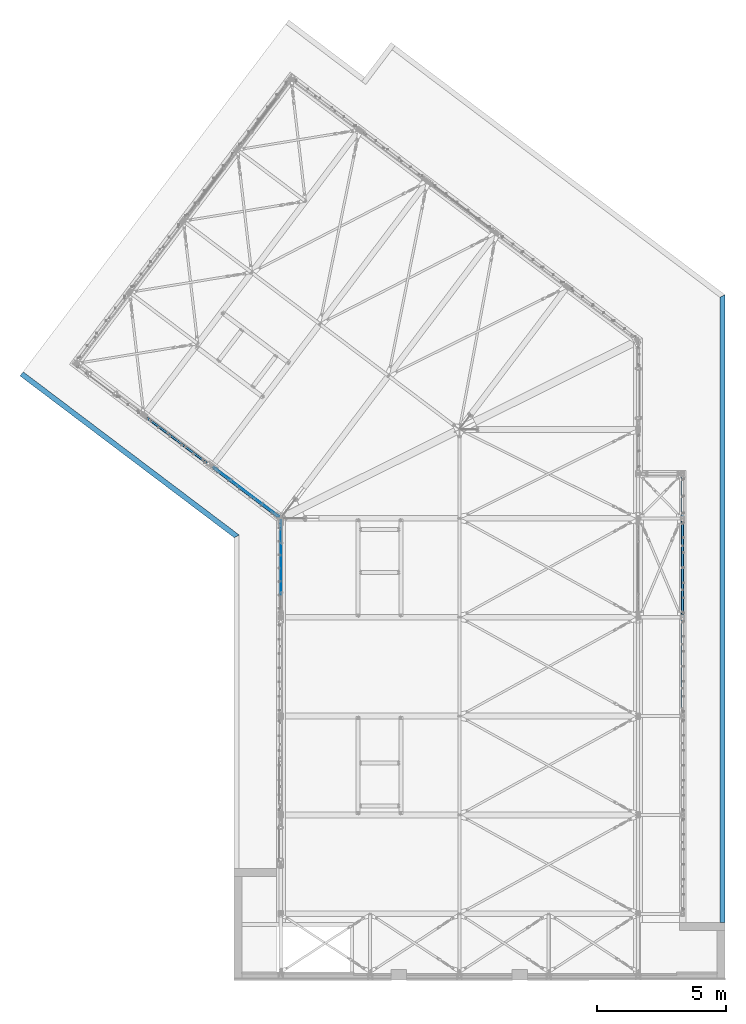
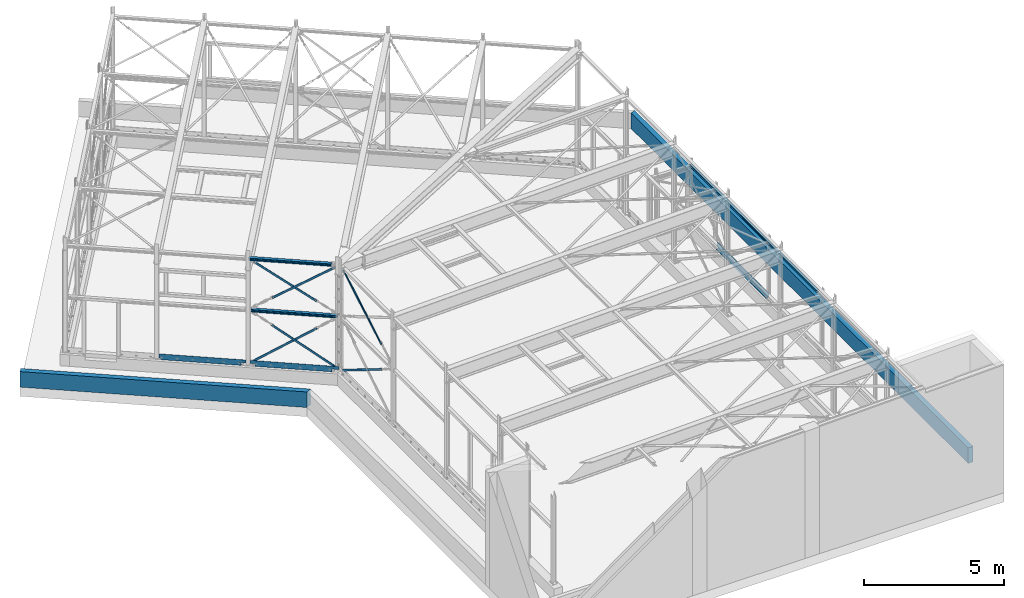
# One storey, part 18 of 476: 8 beams, 6 members, 64 openings.
"""IFC2X3 building model written with IfcOpenShell, lengths in millimetres."""

from ifc_helpers import new_model, entity, si_unit, converted_unit, frame, frame_2d, origin, origin_with_axes, origin_2d, origin_2d_with_axis, place, context, project, spatial, polyline, rectangle, circle, i_section, l_section, outline, extrude, clip, halfspace, material, element, save


model = new_model("IFC2X3")

# Units and contexts
model_context = context("Model", 3, precision=1e-09, world=origin_with_axes())
ifc_project = project(units=[si_unit("LENGTHUNIT", "METRE", prefix="MILLI"), si_unit("AREAUNIT", "SQUARE_METRE"), si_unit("VOLUMEUNIT", "CUBIC_METRE"), converted_unit("PLANEANGLEUNIT", "DEGREE", entity("IfcPlaneAngleMeasure", 0.01745329), si_unit("PLANEANGLEUNIT", "RADIAN"), dimensions=[0, 0, 0, 0, 0, 0, 0])], contexts=[model_context])

# Site, building, storey
site_placement = place(None, origin_with_axes())
site = spatial("IfcSite", under=ifc_project, at=site_placement, Name="mKR Teilneubau & Sanierung BA1 - Ostfildern", CompositionType="ELEMENT")
building_placement = place(site_placement, origin_with_axes())
building = spatial("IfcBuilding", under=site, at=building_placement, Name="Struktur 1", CompositionType="ELEMENT")
storey_placement = place(building_placement, origin_with_axes())
storey = spatial("IfcBuildingStorey", under=building, at=storey_placement, Name="Default Storey", CompositionType="ELEMENT", Elevation=0.0)

# Beam, openings
ifc_material_1 = material(Name="S235JR")
beam_1_placement = place(None, frame((5544.70746781, -4032.7350937, 594.5), z_axis=(0.797941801, -0.602734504, 0.0), x_axis=(0.602734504, 0.797941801, 0.0)))
beam_1 = element("IfcBeam", 1, at=beam_1_placement, inside=storey, material=ifc_material_1, Name="-", ObjectType="-", context=model_context, shape_type="SweptSolid", body=[
    extrude(l_section(Depth=250.0, Width=90.0, Thickness=10.0, FilletRadius=15.0, EdgeRadius=7.5, at=frame_2d((30.5, 29.4))), origin(), (0.0, 0.0, 1.0), 3208.022247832),
])
opening_1_placement = place(beam_1_placement, frame((-115.7, 25.501, 165.001), z_axis=(-1.0, 0.0, 0.0), x_axis=(0.0, 0.0, -1.0)))
element("IfcOpeningElement", 2, at=opening_1_placement, cuts=beam_1, ObjectType="Opening", context=model_context, shape_type="SweptSolid", body=[
    extrude(outline(polyline([(0.0, 0.0), (215.002, 0.0), (215.002, 170.002), (0.0, 170.002), (0.0, 0.0)])), origin(), (0.0, 0.0, -1.0), 290.2),
])
opening_2_placement = place(beam_1_placement, frame((-115.7, -144.501, 2946.361581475), z_axis=(-1.0, 0.0, 0.0), x_axis=(0.0, 0.0, 1.0)))
element("IfcOpeningElement", 3, at=opening_2_placement, cuts=beam_1, ObjectType="Opening", context=model_context, shape_type="SweptSolid", body=[
    extrude(outline(polyline([(0.0, 0.0), (292.425008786, 0.0), (292.425008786, 170.002), (0.0, 170.002), (0.0, 0.0)])), origin(), (0.0, 0.0, -1.0), 290.2),
])
opening_3_placement = place(beam_1_placement, frame((34.4, -95.0, 1555.681290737), z_axis=(0.0, 1.0, 0.0), x_axis=(0.0, 0.0, 1.0)))
element("IfcOpeningElement", 4, at=opening_3_placement, cuts=beam_1, ObjectType="Opening", context=model_context, shape_type="SweptSolid", body=[
    extrude(circle(Radius=6.001, at=frame_2d((425.0, 0.0), x_axis=(1.0, 0.0))), origin(), (0.0, 0.0, 1.0), 11.0),
])
opening_4_placement = place(beam_1_placement, frame((34.4, -95.0, 1555.681290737), z_axis=(0.0, 1.0, 0.0), x_axis=(0.0, 0.0, 1.0)))
element("IfcOpeningElement", 5, at=opening_4_placement, cuts=beam_1, ObjectType="Opening", context=model_context, shape_type="SweptSolid", body=[
    extrude(circle(Radius=6.001, at=frame_2d((-425.0, 0.0), x_axis=(1.0, 0.0))), origin(), (0.0, 0.0, 1.0), 11.0),
])
opening_5_placement = place(beam_1_placement, frame((34.4, -95.0, 1555.681290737), z_axis=(0.0, 1.0, 0.0), x_axis=(0.0, 0.0, 1.0)))
element("IfcOpeningElement", 6, at=opening_5_placement, cuts=beam_1, ObjectType="Opening", context=model_context, shape_type="SweptSolid", body=[
    extrude(circle(Radius=6.001, at=frame_2d((1275.0, 0.0), x_axis=(1.0, 0.0))), origin(), (0.0, 0.0, 1.0), 11.0),
])
opening_6_placement = place(beam_1_placement, frame((34.4, -95.0, 1555.681290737), z_axis=(0.0, 1.0, 0.0), x_axis=(0.0, 0.0, 1.0)))
element("IfcOpeningElement", 7, at=opening_6_placement, cuts=beam_1, ObjectType="Opening", context=model_context, shape_type="SweptSolid", body=[
    extrude(circle(Radius=6.001, at=frame_2d((-1275.0, 0.0), x_axis=(1.0, 0.0))), origin(), (0.0, 0.0, 1.0), 11.0),
])
opening_7_placement = place(beam_1_placement, frame((-5.1, 13.5, 1554.011123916), z_axis=(-1.0, 0.0, 0.0), x_axis=(0.0, 0.0, 1.0)))
element("IfcOpeningElement", 8, at=opening_7_placement, cuts=beam_1, ObjectType="Opening", context=model_context, shape_type="SweptSolid", body=[
    extrude(circle(Radius=7.001, at=frame_2d((265.0, 0.0), x_axis=(1.0, 0.0))), origin(), (0.0, 0.0, 1.0), 11.0),
])
opening_8_placement = place(beam_1_placement, frame((-5.1, 13.5, 1554.011123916), z_axis=(-1.0, 0.0, 0.0), x_axis=(0.0, 0.0, 1.0)))
element("IfcOpeningElement", 9, at=opening_8_placement, cuts=beam_1, ObjectType="Opening", context=model_context, shape_type="SweptSolid", body=[
    extrude(circle(Radius=7.001, at=frame_2d((-265.0, 0.0), x_axis=(1.0, 0.0))), origin(), (0.0, 0.0, 1.0), 11.0),
])
opening_9_placement = place(beam_1_placement, frame((-5.1, 13.5, 1554.011123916), z_axis=(-1.0, 0.0, 0.0), x_axis=(0.0, 0.0, 1.0)))
element("IfcOpeningElement", 10, at=opening_9_placement, cuts=beam_1, ObjectType="Opening", context=model_context, shape_type="SweptSolid", body=[
    extrude(circle(Radius=7.001, at=frame_2d((795.0, 0.0), x_axis=(1.0, 0.0))), origin(), (0.0, 0.0, 1.0), 11.0),
])
opening_10_placement = place(beam_1_placement, frame((-5.1, 13.5, 1554.011123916), z_axis=(-1.0, 0.0, 0.0), x_axis=(0.0, 0.0, 1.0)))
element("IfcOpeningElement", 11, at=opening_10_placement, cuts=beam_1, ObjectType="Opening", context=model_context, shape_type="SweptSolid", body=[
    extrude(circle(Radius=7.001, at=frame_2d((-795.0, 0.0), x_axis=(1.0, 0.0))), origin(), (0.0, 0.0, 1.0), 11.0),
])
opening_11_placement = place(beam_1_placement, frame((-5.1, 13.5, 1554.011123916), z_axis=(-1.0, 0.0, 0.0), x_axis=(0.0, 0.0, 1.0)))
element("IfcOpeningElement", 12, at=opening_11_placement, cuts=beam_1, ObjectType="Opening", context=model_context, shape_type="SweptSolid", body=[
    extrude(circle(Radius=7.001, at=frame_2d((1325.0, 0.0), x_axis=(1.0, 0.0))), origin(), (0.0, 0.0, 1.0), 11.0),
])
opening_12_placement = place(beam_1_placement, frame((-5.1, 13.5, 1554.011123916), z_axis=(-1.0, 0.0, 0.0), x_axis=(0.0, 0.0, 1.0)))
element("IfcOpeningElement", 13, at=opening_12_placement, cuts=beam_1, ObjectType="Opening", context=model_context, shape_type="SweptSolid", body=[
    extrude(circle(Radius=7.001, at=frame_2d((-1325.0, 0.0), x_axis=(1.0, 0.0))), origin(), (0.0, 0.0, 1.0), 11.0),
])

# Member, openings
member_1_placement = place(None, frame((8180.608780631, -6144.963017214, 5041.7607805), z_axis=(0.0, 0.861941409, 0.507007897), x_axis=(1.0, 0.0, 0.0)))
member_1 = element("IfcMember", 14, at=member_1_placement, inside=storey, material=ifc_material_1, Name="-", ObjectType="-", context=model_context, shape_type="SweptSolid", body=[
    extrude(rectangle(XDim=15.0, YDim=80.0, at=origin_2d()), origin(), (0.0, 0.0, -1.0), 3147.918705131),
])
opening_13_placement = place(member_1_placement, frame((8.0, -8.113278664, -73.791962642), z_axis=(1.0, 0.0, 0.0), x_axis=(0.0, 1.0, 0.0)))
element("IfcOpeningElement", 15, at=opening_13_placement, cuts=member_1, ObjectType="Opening", context=model_context, shape_type="SweptSolid", body=[
    extrude(circle(Radius=16.001, at=frame_2d((8.112633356, 13.791924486), x_axis=(1.0, 0.0))), origin(), (0.0, 0.0, -1.0), 16.0),
])
opening_14_placement = place(member_1_placement, frame((8.0, 0.0, -3087.918705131), z_axis=(-1.0, 0.0, 0.0), x_axis=(0.0, 0.0, -1.0)))
element("IfcOpeningElement", 16, at=opening_14_placement, cuts=member_1, ObjectType="Opening", context=model_context, shape_type="SweptSolid", body=[
    extrude(circle(Radius=16.001, at=origin_2d_with_axis()), origin(), (0.0, 0.0, 1.0), 16.0),
])

member_2_placement = place(None, frame((8180.60877169, -8867.604272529, 2355.088920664), z_axis=(0.0, -0.849856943, 0.527013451), x_axis=(1.0, 0.0, 0.0)))
member_2 = element("IfcMember", 17, at=member_2_placement, inside=storey, material=ifc_material_1, Name="-", ObjectType="-", context=model_context, shape_type="SweptSolid", body=[
    extrude(rectangle(XDim=15.0, YDim=80.0, at=origin_2d()), origin(), (0.0, 0.0, -1.0), 3314.667608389),
])
opening_15_placement = place(member_2_placement, frame((8.0, 0.0, -60.0), z_axis=(-1.0, 0.0, 0.0), x_axis=(0.0, 0.0, 1.0)))
element("IfcOpeningElement", 18, at=opening_15_placement, cuts=member_2, ObjectType="Opening", context=model_context, shape_type="SweptSolid", body=[
    extrude(circle(Radius=16.001, at=origin_2d_with_axis()), origin(), (0.0, 0.0, 1.0), 16.0),
])
opening_16_placement = place(member_2_placement, frame((8.000000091, -0.001879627, -3254.667607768), z_axis=(-1.0, 0.0, 0.0), x_axis=(0.0, 0.527013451, -0.849856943)))
element("IfcOpeningElement", 19, at=opening_16_placement, cuts=member_2, ObjectType="Opening", context=model_context, shape_type="SweptSolid", body=[
    extrude(circle(Radius=16.001, at=origin_2d_with_axis()), origin(), (0.0, 0.0, 1.0), 16.000000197),
])

member_3_placement = place(None, frame((6208.380627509, -4451.460784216, 3493.84003696), z_axis=(-0.661365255, 0.499569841, -0.559487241), x_axis=(0.602734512, 0.797941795, 0.0)))
member_3 = element("IfcMember", 20, at=member_3_placement, inside=storey, material=ifc_material_1, Name="-", ObjectType="-", context=model_context, shape_type="SweptSolid", body=[
    extrude(rectangle(XDim=15.0, YDim=80.0, at=origin_2d()), origin(), (0.0, 0.0, -1.0), 2758.093471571),
])
opening_17_placement = place(member_3_placement, frame((8.000001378, 3.25e-07, -2698.093480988), z_axis=(-1.0, 0.0, 0.0), x_axis=(0.0, 0.559487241, -0.828838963)))
element("IfcOpeningElement", 21, at=opening_17_placement, cuts=member_3, ObjectType="Opening", context=model_context, shape_type="SweptSolid", body=[
    extrude(circle(Radius=16.001, at=origin_2d_with_axis()), origin(), (0.0, 0.0, 1.0), 16.000002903),
])
opening_18_placement = place(member_3_placement, frame((8.0, 0.0, -60.0), z_axis=(-1.0, 0.0, 0.0), x_axis=(0.0, 0.0, -1.0)))
element("IfcOpeningElement", 22, at=opening_18_placement, cuts=member_3, ObjectType="Opening", context=model_context, shape_type="SweptSolid", body=[
    extrude(circle(Radius=16.001, at=origin_2d_with_axis()), origin(), (0.0, 0.0, 1.0), 16.0),
])

member_4_placement = place(None, frame((5662.754287, -4039.315661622, 5036.95813771), z_axis=(-0.661365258, 0.499569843, 0.559487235), x_axis=(0.602734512, 0.797941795, 0.0)))
member_4 = element("IfcMember", 23, at=member_4_placement, inside=storey, material=ifc_material_1, Name="-", ObjectType="-", context=model_context, shape_type="SweptSolid", body=[
    extrude(rectangle(XDim=15.0, YDim=80.0, at=origin_2d()), origin(), (0.0, 0.0, -1.0), 2758.09347402),
])
opening_19_placement = place(member_4_placement, frame((8.000001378, -3.25e-07, -59.99999795), z_axis=(-1.0, 0.0, 0.0), x_axis=(0.0, -0.559487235, -0.828838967)))
element("IfcOpeningElement", 24, at=opening_19_placement, cuts=member_4, ObjectType="Opening", context=model_context, shape_type="SweptSolid", body=[
    extrude(circle(Radius=16.001, at=origin_2d_with_axis()), origin(), (0.0, 0.0, 1.0), 16.000002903),
])
opening_20_placement = place(member_4_placement, frame((8.0, 0.0, -2698.093480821), z_axis=(-1.0, 0.0, 0.0), x_axis=(0.0, 0.0, -1.0)))
element("IfcOpeningElement", 25, at=opening_20_placement, cuts=member_4, ObjectType="Opening", context=model_context, shape_type="SweptSolid", body=[
    extrude(circle(Radius=16.001, at=origin_2d_with_axis()), origin(), (0.0, 0.0, 1.0), 16.0),
])

member_5_placement = place(None, frame((8091.63453492, -5873.998230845, 619.037732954), z_axis=(0.650125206, -0.491079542, -0.579808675), x_axis=(0.602734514, 0.797941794, 0.0)))
member_5 = element("IfcMember", 26, at=member_5_placement, inside=storey, material=ifc_material_1, Name="-", ObjectType="-", context=model_context, shape_type="SweptSolid", body=[
    extrude(rectangle(XDim=15.0, YDim=80.0, at=origin_2d()), origin(), (0.0, 0.0, -1.0), 2909.942158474),
])
opening_21_placement = place(member_5_placement, frame((8.00000136, 3.23e-07, -59.999998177), z_axis=(-1.0, 0.0, 0.0), x_axis=(0.0, 0.579808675, 0.814752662)))
element("IfcOpeningElement", 27, at=opening_21_placement, cuts=member_5, ObjectType="Opening", context=model_context, shape_type="SweptSolid", body=[
    extrude(circle(Radius=16.001, at=origin_2d_with_axis()), origin(), (0.0, 0.0, 1.0), 16.000002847),
])
opening_22_placement = place(member_5_placement, frame((8.0, 0.0, -2849.942159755), z_axis=(-1.0, 0.0, 0.0), x_axis=(0.0, 0.0, -1.0)))
element("IfcOpeningElement", 28, at=opening_22_placement, cuts=member_5, ObjectType="Opening", context=model_context, shape_type="SweptSolid", body=[
    extrude(circle(Radius=16.001, at=origin_2d_with_axis()), origin(), (0.0, 0.0, 1.0), 16.0),
])

member_6_placement = place(None, frame((7495.434800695, -5423.651919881, 2306.246630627), z_axis=(0.650125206, -0.491079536, 0.579808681), x_axis=(0.60273451, 0.797941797, 0.0)))
member_6 = element("IfcMember", 29, at=member_6_placement, inside=storey, material=ifc_material_1, Name="-", ObjectType="-", context=model_context, shape_type="SweptSolid", body=[
    extrude(rectangle(XDim=15.0, YDim=80.0, at=origin_2d()), origin(), (0.0, 0.0, -1.0), 2909.942154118),
])
opening_23_placement = place(member_6_placement, frame((8.000001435, -3.41e-07, -2849.942153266), z_axis=(-1.0, 0.0, 0.0), x_axis=(0.0, -0.579808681, 0.814752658)))
element("IfcOpeningElement", 30, at=opening_23_placement, cuts=member_6, ObjectType="Opening", context=model_context, shape_type="SweptSolid", body=[
    extrude(circle(Radius=16.001, at=origin_2d_with_axis()), origin(), (0.0, 0.0, 1.0), 16.000003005),
])
opening_24_placement = place(member_6_placement, frame((8.0, 0.0, -59.999997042), z_axis=(-1.0, 0.0, 0.0), x_axis=(0.0, 0.0, 1.0)))
element("IfcOpeningElement", 31, at=opening_24_placement, cuts=member_6, ObjectType="Opening", context=model_context, shape_type="SweptSolid", body=[
    extrude(circle(Radius=16.001, at=origin_2d_with_axis()), origin(), (0.0, 0.0, 1.0), 16.0),
])

# Beams
beam_2_placement = place(None, frame((5445.514318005, -3894.020080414, 2912.000000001), z_axis=(-0.797941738, 0.602734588, 0.0), x_axis=(-0.602734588, -0.797941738, 0.0)))
element("IfcBeam", 32, at=beam_2_placement, inside=storey, material=ifc_material_1, Name="-", ObjectType="-", context=model_context, shape_type="Clipping", body=[
    clip(clip(extrude(i_section(OverallWidth=120.0, OverallDepth=114.0, WebThickness=5.0, FlangeThickness=8.0, FilletRadius=12.0, at=origin_2d()), origin(), (0.0, 0.0, -1.0), 3501.333926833), halfspace(frame((174.997958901, -2912.000000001, -182.759703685), z_axis=(-1.05e-07, 0.0, -1.0), x_axis=(-1.0, 0.0, 1.05e-07)), True)), halfspace(frame((4125.367764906, -2912.000000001, -1243.639179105), z_axis=(-0.445626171, 0.0, 0.895219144), x_axis=(0.895219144, 0.0, 0.445626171)), True)),
])
ifc_material_2 = material(Name="C25/30")
beam_3_placement = place(None, frame((7039.844424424, -7078.412447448, 340.0), z_axis=(0.797939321, -0.602737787, 0.0), x_axis=(0.602737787, 0.797939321, 0.0)))
element("IfcBeam", 33, at=beam_3_placement, inside=storey, material=ifc_material_2, Name="-", ObjectType="-", context=model_context, shape_type="Clipping", body=[
    clip(extrude(outline(polyline([(100.0, -340.0), (100.0, 340.0), (-100.0, 340.0), (-100.0, -340.0), (100.0, -340.0)])), origin(), (0.0, 0.0, -1.0), 11138.806274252), halfspace(frame((-2527.822247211, -340.0, -1984.417573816), z_axis=(0.445680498, 0.0, -0.895192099), x_axis=(-0.895192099, 0.0, -0.445680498)), True)),
])
beam_4_placement = place(None, frame((25225.608703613, -21560.673034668, 340.0), z_axis=(0.0, -1.0, 0.0), x_axis=(1.0, 0.0, 0.0)))
element("IfcBeam", 34, at=beam_4_placement, inside=storey, material=ifc_material_2, Name="-", ObjectType="-", context=model_context, shape_type="Clipping", body=[
    clip(extrude(outline(polyline([(100.0, -340.0), (100.0, 340.0), (-100.0, 340.0), (-100.0, -340.0), (100.0, -340.0)])), origin(), (0.0, 0.0, -1.0), 24925.452040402), halfspace(frame((-21267.807209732, -340.0, -13611.08845573), z_axis=(0.445682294, 0.0, 0.895191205), x_axis=(0.895191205, 0.0, -0.445682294)), True)),
])

# Beam, openings
beam_5_placement = place(None, frame((23683.608764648, -4168.67387897, 3018.0), z_axis=(0.0, 1.0, 0.0), x_axis=(-1.0, 0.0, 0.0)))
beam_5 = element("IfcBeam", 35, at=beam_5_placement, inside=storey, material=ifc_material_1, Name="-", ObjectType="-", context=model_context, shape_type="Clipping", body=[
    clip(extrude(i_section(OverallWidth=100.0, OverallDepth=96.0, WebThickness=5.0, FlangeThickness=8.0, FilletRadius=12.0, at=origin_2d()), origin(), (0.0, 0.0, -1.0), 9186.310893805), halfspace(frame((23683.608764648, -3018.0, -9101.999), z_axis=(0.0, 0.0, 1.0), x_axis=(1.0, 0.0, 0.0)), True)),
])
opening_25_placement = place(beam_5_placement, frame((28.0, -48.5, -5529.001), z_axis=(0.0, -1.0, 0.0), x_axis=(1.0, 0.0, 0.0)))
element("IfcOpeningElement", 36, at=opening_25_placement, cuts=beam_5, ObjectType="Opening", context=model_context, shape_type="SweptSolid", body=[
    extrude(circle(Radius=7.001, at=frame_2d((0.0, 7.001), x_axis=(1.0, 0.0))), origin(), (0.0, 0.0, -1.0), 9.0),
])
opening_26_placement = place(beam_5_placement, frame((28.0, -48.5, -1712.001), z_axis=(0.0, -1.0, 0.0), x_axis=(1.0, 0.0, 0.0)))
element("IfcOpeningElement", 37, at=opening_26_placement, cuts=beam_5, ObjectType="Opening", context=model_context, shape_type="SweptSolid", body=[
    extrude(circle(Radius=7.001, at=frame_2d((0.0, 7.001), x_axis=(1.0, 0.0))), origin(), (0.0, 0.0, -1.0), 9.0),
])
opening_27_placement = place(beam_5_placement, frame((-28.0, -48.5, -5664.999), z_axis=(0.0, -1.0, 0.0), x_axis=(1.0, 0.0, 0.0)))
element("IfcOpeningElement", 38, at=opening_27_placement, cuts=beam_5, ObjectType="Opening", context=model_context, shape_type="SweptSolid", body=[
    extrude(circle(Radius=7.001, at=frame_2d((0.0, -7.001), x_axis=(1.0, 0.0))), origin(), (0.0, 0.0, -1.0), 9.0),
])
opening_28_placement = place(beam_5_placement, frame((-28.0, -48.5, -1847.999), z_axis=(0.0, -1.0, 0.0), x_axis=(1.0, 0.0, 0.0)))
element("IfcOpeningElement", 39, at=opening_28_placement, cuts=beam_5, ObjectType="Opening", context=model_context, shape_type="SweptSolid", body=[
    extrude(circle(Radius=7.001, at=frame_2d((0.0, -7.001), x_axis=(1.0, 0.0))), origin(), (0.0, 0.0, -1.0), 9.0),
])
opening_29_placement = place(beam_5_placement, frame((-28.0, -48.5, -1712.001), z_axis=(0.0, -1.0, 0.0), x_axis=(1.0, 0.0, 0.0)))
element("IfcOpeningElement", 40, at=opening_29_placement, cuts=beam_5, ObjectType="Opening", context=model_context, shape_type="SweptSolid", body=[
    extrude(circle(Radius=7.001, at=frame_2d((0.0, 7.001), x_axis=(1.0, 0.0))), origin(), (0.0, 0.0, -1.0), 9.0),
])
opening_30_placement = place(beam_5_placement, frame((-28.0, -48.5, -5529.001), z_axis=(0.0, -1.0, 0.0), x_axis=(1.0, 0.0, 0.0)))
element("IfcOpeningElement", 41, at=opening_30_placement, cuts=beam_5, ObjectType="Opening", context=model_context, shape_type="SweptSolid", body=[
    extrude(circle(Radius=7.001, at=frame_2d((0.0, 7.001), x_axis=(1.0, 0.0))), origin(), (0.0, 0.0, -1.0), 9.0),
])
opening_31_placement = place(beam_5_placement, frame((28.0, -48.5, -1847.999), z_axis=(0.0, -1.0, 0.0), x_axis=(1.0, 0.0, 0.0)))
element("IfcOpeningElement", 42, at=opening_31_placement, cuts=beam_5, ObjectType="Opening", context=model_context, shape_type="SweptSolid", body=[
    extrude(circle(Radius=7.001, at=frame_2d((0.0, -7.001), x_axis=(1.0, 0.0))), origin(), (0.0, 0.0, -1.0), 9.0),
])
opening_32_placement = place(beam_5_placement, frame((28.0, -48.5, -5664.999), z_axis=(0.0, -1.0, 0.0), x_axis=(1.0, 0.0, 0.0)))
element("IfcOpeningElement", 43, at=opening_32_placement, cuts=beam_5, ObjectType="Opening", context=model_context, shape_type="SweptSolid", body=[
    extrude(circle(Radius=7.001, at=frame_2d((0.0, -7.001), x_axis=(1.0, 0.0))), origin(), (0.0, 0.0, -1.0), 9.0),
])
opening_33_placement = place(beam_5_placement, frame((-28.0, -48.5, -117.999), z_axis=(0.0, -1.0, 0.0), x_axis=(1.0, 0.0, 0.0)))
element("IfcOpeningElement", 44, at=opening_33_placement, cuts=beam_5, ObjectType="Opening", context=model_context, shape_type="SweptSolid", body=[
    extrude(circle(Radius=7.001, at=frame_2d((0.0, -7.001), x_axis=(1.0, 0.0))), origin(), (0.0, 0.0, -1.0), 9.0),
])
opening_34_placement = place(beam_5_placement, frame((28.0, -48.5, -117.999), z_axis=(0.0, -1.0, 0.0), x_axis=(1.0, 0.0, 0.0)))
element("IfcOpeningElement", 45, at=opening_34_placement, cuts=beam_5, ObjectType="Opening", context=model_context, shape_type="SweptSolid", body=[
    extrude(circle(Radius=7.001, at=frame_2d((0.0, -7.001), x_axis=(1.0, 0.0))), origin(), (0.0, 0.0, -1.0), 9.0),
])

beam_6_placement = place(None, frame((5445.514277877, -3894.020049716, 5157.221173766), z_axis=(-0.797941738, 0.602734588, 0.0), x_axis=(-0.602462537, -0.797581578, -0.030041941)))
beam_6 = element("IfcBeam", 46, at=beam_6_placement, inside=storey, material=ifc_material_1, Name="-", ObjectType="-", context=model_context, shape_type="Clipping", body=[
    clip(extrude(i_section(OverallWidth=120.0, OverallDepth=114.0, WebThickness=5.0, FlangeThickness=8.0, FilletRadius=12.0, at=origin_2d()), origin(), (0.0, 0.0, -1.0), 3098.887726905), halfspace(frame((329.851917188, -5149.636126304, -100.759770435), z_axis=(-1.05e-07, 0.0, -1.0), x_axis=(-0.999548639, -0.030041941, 1.05e-07)), True)),
])
opening_35_placement = place(beam_6_placement, frame((45.0, 58.353598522, -162.758740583), z_axis=(0.0, -1.0, 0.0), x_axis=(1.05e-07, 0.0, 1.0)))
element("IfcOpeningElement", 47, at=opening_35_placement, cuts=beam_6, ObjectType="Opening", context=model_context, shape_type="SweptSolid", body=[
    extrude(outline(polyline([(0.0, 0.0), (0.0, -30.0), (62.0, -30.0), (62.0, 0.0), (0.0, 0.0)])), origin(), (0.0, 0.0, 1.0), 59.707197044),
])
opening_36_placement = place(beam_6_placement, frame((45.0, 1.332627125, -162.758740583), z_axis=(0.0, -1.0, 0.0), x_axis=(1.05e-07, 0.0, 1.0)))
element("IfcOpeningElement", 48, at=opening_36_placement, cuts=beam_6, ObjectType="Opening", context=model_context, shape_type="SweptSolid", body=[
    extrude(outline(polyline([(0.0, 0.0), (0.0, -30.0), (62.0, -30.0), (62.0, 0.0), (0.0, 0.0)])), origin(), (0.0, 0.0, 1.0), 59.665254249),
])
opening_37_placement = place(beam_6_placement, frame((3.0, 30.0, -3088.887882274), z_axis=(-1.0, 0.0, 0.0), x_axis=(0.0, 0.0, 1.0)))
element("IfcOpeningElement", 49, at=opening_37_placement, cuts=beam_6, ObjectType="Opening", context=model_context, shape_type="SweptSolid", body=[
    extrude(circle(Radius=6.001, at=origin_2d_with_axis()), origin(), (0.0, 0.0, 1.0), 6.0),
])
opening_38_placement = place(beam_6_placement, frame((3.0, -30.0, -3088.887882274), z_axis=(-1.0, 0.0, 0.0), x_axis=(0.0, 0.0, 1.0)))
element("IfcOpeningElement", 50, at=opening_38_placement, cuts=beam_6, ObjectType="Opening", context=model_context, shape_type="SweptSolid", body=[
    extrude(circle(Radius=6.001, at=origin_2d_with_axis()), origin(), (0.0, 0.0, 1.0), 6.0),
])

beam_7_placement = place(None, frame((2911.499483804, -2043.711198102, 594.5), z_axis=(0.797941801, -0.602734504, 0.0), x_axis=(0.602734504, 0.797941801, 0.0)))
beam_7 = element("IfcBeam", 51, at=beam_7_placement, inside=storey, material=ifc_material_1, Name="-", ObjectType="-", context=model_context, shape_type="SweptSolid", body=[
    extrude(l_section(Depth=250.0, Width=90.0, Thickness=10.0, FilletRadius=15.0, EdgeRadius=7.5, at=frame_2d((30.5, 29.4))), origin(), (0.0, 0.0, 1.0), 3140.000052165),
])
opening_39_placement = place(beam_7_placement, frame((-115.7, -14.499, 65.001), z_axis=(-1.0, 0.0, 0.0), x_axis=(0.0, 0.0, -1.0)))
element("IfcOpeningElement", 52, at=opening_39_placement, cuts=beam_7, ObjectType="Opening", context=model_context, shape_type="SweptSolid", body=[
    extrude(outline(polyline([(0.0, 0.0), (115.002, 0.0), (115.002, 130.002), (0.0, 130.002), (0.0, 0.0)])), origin(), (0.0, 0.0, -1.0), 290.2),
])
opening_40_placement = place(beam_7_placement, frame((-115.7, -144.501, 2974.999052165), z_axis=(-1.0, 0.0, 0.0), x_axis=(0.0, 0.0, 1.0)))
element("IfcOpeningElement", 53, at=opening_40_placement, cuts=beam_7, ObjectType="Opening", context=model_context, shape_type="SweptSolid", body=[
    extrude(outline(polyline([(0.0, 0.0), (211.576729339, 0.0), (211.576729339, 170.002), (0.0, 170.002), (0.0, 0.0)])), origin(), (0.0, 0.0, -1.0), 290.2),
])
opening_41_placement = place(beam_7_placement, frame((34.4, -95.0, 1520.000026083), z_axis=(0.0, 1.0, 0.0), x_axis=(0.0, 0.0, 1.0)))
element("IfcOpeningElement", 54, at=opening_41_placement, cuts=beam_7, ObjectType="Opening", context=model_context, shape_type="SweptSolid", body=[
    extrude(circle(Radius=6.001, at=frame_2d((425.0, 0.0), x_axis=(1.0, 0.0))), origin(), (0.0, 0.0, 1.0), 11.0),
])
opening_42_placement = place(beam_7_placement, frame((34.4, -95.0, 1520.000026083), z_axis=(0.0, 1.0, 0.0), x_axis=(0.0, 0.0, 1.0)))
element("IfcOpeningElement", 55, at=opening_42_placement, cuts=beam_7, ObjectType="Opening", context=model_context, shape_type="SweptSolid", body=[
    extrude(circle(Radius=6.001, at=frame_2d((-425.0, 0.0), x_axis=(1.0, 0.0))), origin(), (0.0, 0.0, 1.0), 11.0),
])
opening_43_placement = place(beam_7_placement, frame((34.4, -95.0, 1520.000026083), z_axis=(0.0, 1.0, 0.0), x_axis=(0.0, 0.0, 1.0)))
element("IfcOpeningElement", 56, at=opening_43_placement, cuts=beam_7, ObjectType="Opening", context=model_context, shape_type="SweptSolid", body=[
    extrude(circle(Radius=6.001, at=frame_2d((1275.0, 0.0), x_axis=(1.0, 0.0))), origin(), (0.0, 0.0, 1.0), 11.0),
])
opening_44_placement = place(beam_7_placement, frame((34.4, -95.0, 1520.000026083), z_axis=(0.0, 1.0, 0.0), x_axis=(0.0, 0.0, 1.0)))
element("IfcOpeningElement", 57, at=opening_44_placement, cuts=beam_7, ObjectType="Opening", context=model_context, shape_type="SweptSolid", body=[
    extrude(circle(Radius=6.001, at=frame_2d((-1275.0, 0.0), x_axis=(1.0, 0.0))), origin(), (0.0, 0.0, 1.0), 11.0),
])
opening_45_placement = place(beam_7_placement, frame((-5.1, 13.5, 1510.000026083), z_axis=(-1.0, 0.0, 0.0), x_axis=(0.0, 0.0, 1.0)))
element("IfcOpeningElement", 58, at=opening_45_placement, cuts=beam_7, ObjectType="Opening", context=model_context, shape_type="SweptSolid", body=[
    extrude(circle(Radius=7.001, at=frame_2d((280.0, 0.0), x_axis=(1.0, 0.0))), origin(), (0.0, 0.0, 1.0), 11.0),
])
opening_46_placement = place(beam_7_placement, frame((-5.1, 13.5, 1510.000026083), z_axis=(-1.0, 0.0, 0.0), x_axis=(0.0, 0.0, 1.0)))
element("IfcOpeningElement", 59, at=opening_46_placement, cuts=beam_7, ObjectType="Opening", context=model_context, shape_type="SweptSolid", body=[
    extrude(circle(Radius=7.001, at=frame_2d((-280.0, 0.0), x_axis=(1.0, 0.0))), origin(), (0.0, 0.0, 1.0), 11.0),
])
opening_47_placement = place(beam_7_placement, frame((-5.1, 13.5, 1510.000026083), z_axis=(-1.0, 0.0, 0.0), x_axis=(0.0, 0.0, 1.0)))
element("IfcOpeningElement", 60, at=opening_47_placement, cuts=beam_7, ObjectType="Opening", context=model_context, shape_type="SweptSolid", body=[
    extrude(circle(Radius=7.001, at=frame_2d((840.0, 0.0), x_axis=(1.0, 0.0))), origin(), (0.0, 0.0, 1.0), 11.0),
])
opening_48_placement = place(beam_7_placement, frame((-5.1, 13.5, 1510.000026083), z_axis=(-1.0, 0.0, 0.0), x_axis=(0.0, 0.0, 1.0)))
element("IfcOpeningElement", 61, at=opening_48_placement, cuts=beam_7, ObjectType="Opening", context=model_context, shape_type="SweptSolid", body=[
    extrude(circle(Radius=7.001, at=frame_2d((-840.0, 0.0), x_axis=(1.0, 0.0))), origin(), (0.0, 0.0, 1.0), 11.0),
])
opening_49_placement = place(beam_7_placement, frame((-5.1, 13.5, 1510.000026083), z_axis=(-1.0, 0.0, 0.0), x_axis=(0.0, 0.0, 1.0)))
element("IfcOpeningElement", 62, at=opening_49_placement, cuts=beam_7, ObjectType="Opening", context=model_context, shape_type="SweptSolid", body=[
    extrude(circle(Radius=7.001, at=frame_2d((1400.0, 0.0), x_axis=(1.0, 0.0))), origin(), (0.0, 0.0, 1.0), 11.0),
])
opening_50_placement = place(beam_7_placement, frame((-5.1, 13.5, 1510.000026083), z_axis=(-1.0, 0.0, 0.0), x_axis=(0.0, 0.0, 1.0)))
element("IfcOpeningElement", 63, at=opening_50_placement, cuts=beam_7, ObjectType="Opening", context=model_context, shape_type="SweptSolid", body=[
    extrude(circle(Radius=7.001, at=frame_2d((-1400.0, 0.0), x_axis=(1.0, 0.0))), origin(), (0.0, 0.0, 1.0), 11.0),
])

beam_8_placement = place(None, frame((23718.008764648, -9705.67387897, 594.5), z_axis=(0.0, 1.0, 0.0), x_axis=(-1.0, 0.0, 0.0)))
beam_8 = element("IfcBeam", 64, at=beam_8_placement, inside=storey, material=ifc_material_1, Name="-", ObjectType="-", context=model_context, shape_type="SweptSolid", body=[
    extrude(l_section(Depth=250.0, Width=90.0, Thickness=10.0, FilletRadius=15.0, EdgeRadius=7.5, at=frame_2d((30.5, 29.4))), origin(), (0.0, 0.0, 1.0), 3697.0),
])
opening_51_placement = place(beam_8_placement, frame((-115.7, -14.499, 60.001), z_axis=(-1.0, 0.0, 0.0), x_axis=(0.0, 0.0, -1.0)))
element("IfcOpeningElement", 65, at=opening_51_placement, cuts=beam_8, ObjectType="Opening", context=model_context, shape_type="SweptSolid", body=[
    extrude(outline(polyline([(0.0, 0.0), (110.002, 0.0), (110.002, 130.002), (0.0, 130.002), (0.0, 0.0)])), origin(), (0.0, 0.0, -1.0), 290.2),
])
opening_52_placement = place(beam_8_placement, frame((-115.7, -144.501, 3636.999), z_axis=(-1.0, 0.0, 0.0), x_axis=(0.0, 0.0, 1.0)))
element("IfcOpeningElement", 66, at=opening_52_placement, cuts=beam_8, ObjectType="Opening", context=model_context, shape_type="SweptSolid", body=[
    extrude(outline(polyline([(0.0, 0.0), (91.33902001, 0.0), (91.33902001, 130.002), (0.0, 130.002), (0.0, 0.0)])), origin(), (0.0, 0.0, -1.0), 290.2),
])
opening_53_placement = place(beam_8_placement, frame((34.4, -95.0, 1848.5), z_axis=(0.0, 1.0, 0.0), x_axis=(0.0, 0.0, 1.0)))
element("IfcOpeningElement", 67, at=opening_53_placement, cuts=beam_8, ObjectType="Opening", context=model_context, shape_type="SweptSolid", body=[
    extrude(circle(Radius=6.001, at=origin_2d_with_axis()), origin(), (0.0, 0.0, 1.0), 11.0),
])
opening_54_placement = place(beam_8_placement, frame((34.4, -95.0, 1848.5), z_axis=(0.0, 1.0, 0.0), x_axis=(0.0, 0.0, 1.0)))
element("IfcOpeningElement", 68, at=opening_54_placement, cuts=beam_8, ObjectType="Opening", context=model_context, shape_type="SweptSolid", body=[
    extrude(circle(Radius=6.001, at=frame_2d((850.0, 0.0), x_axis=(1.0, 0.0))), origin(), (0.0, 0.0, 1.0), 11.0),
])
opening_55_placement = place(beam_8_placement, frame((34.4, -95.0, 1848.5), z_axis=(0.0, 1.0, 0.0), x_axis=(0.0, 0.0, 1.0)))
element("IfcOpeningElement", 69, at=opening_55_placement, cuts=beam_8, ObjectType="Opening", context=model_context, shape_type="SweptSolid", body=[
    extrude(circle(Radius=6.001, at=frame_2d((-850.0, 0.0), x_axis=(1.0, 0.0))), origin(), (0.0, 0.0, 1.0), 11.0),
])
opening_56_placement = place(beam_8_placement, frame((34.4, -95.0, 1848.5), z_axis=(0.0, 1.0, 0.0), x_axis=(0.0, 0.0, 1.0)))
element("IfcOpeningElement", 70, at=opening_56_placement, cuts=beam_8, ObjectType="Opening", context=model_context, shape_type="SweptSolid", body=[
    extrude(circle(Radius=6.001, at=frame_2d((1700.0, 0.0), x_axis=(1.0, 0.0))), origin(), (0.0, 0.0, 1.0), 11.0),
])
opening_57_placement = place(beam_8_placement, frame((34.4, -95.0, 1848.5), z_axis=(0.0, 1.0, 0.0), x_axis=(0.0, 0.0, 1.0)))
element("IfcOpeningElement", 71, at=opening_57_placement, cuts=beam_8, ObjectType="Opening", context=model_context, shape_type="SweptSolid", body=[
    extrude(circle(Radius=6.001, at=frame_2d((-1700.0, 0.0), x_axis=(1.0, 0.0))), origin(), (0.0, 0.0, 1.0), 11.0),
])
opening_58_placement = place(beam_8_placement, frame((-5.1, 13.5, 1848.5), z_axis=(-1.0, 0.0, 0.0), x_axis=(0.0, 0.0, 1.0)))
element("IfcOpeningElement", 72, at=opening_58_placement, cuts=beam_8, ObjectType="Opening", context=model_context, shape_type="SweptSolid", body=[
    extrude(circle(Radius=7.001, at=origin_2d_with_axis()), origin(), (0.0, 0.0, 1.0), 11.0),
])
opening_59_placement = place(beam_8_placement, frame((-5.1, 13.5, 1848.5), z_axis=(-1.0, 0.0, 0.0), x_axis=(0.0, 0.0, 1.0)))
element("IfcOpeningElement", 73, at=opening_59_placement, cuts=beam_8, ObjectType="Opening", context=model_context, shape_type="SweptSolid", body=[
    extrude(circle(Radius=7.001, at=frame_2d((580.0, 0.0), x_axis=(1.0, 0.0))), origin(), (0.0, 0.0, 1.0), 11.0),
])
opening_60_placement = place(beam_8_placement, frame((-5.1, 13.5, 1848.5), z_axis=(-1.0, 0.0, 0.0), x_axis=(0.0, 0.0, 1.0)))
element("IfcOpeningElement", 74, at=opening_60_placement, cuts=beam_8, ObjectType="Opening", context=model_context, shape_type="SweptSolid", body=[
    extrude(circle(Radius=7.001, at=frame_2d((-580.0, 0.0), x_axis=(1.0, 0.0))), origin(), (0.0, 0.0, 1.0), 11.0),
])
opening_61_placement = place(beam_8_placement, frame((-5.1, 13.5, 1848.5), z_axis=(-1.0, 0.0, 0.0), x_axis=(0.0, 0.0, 1.0)))
element("IfcOpeningElement", 75, at=opening_61_placement, cuts=beam_8, ObjectType="Opening", context=model_context, shape_type="SweptSolid", body=[
    extrude(circle(Radius=7.001, at=frame_2d((1160.0, 0.0), x_axis=(1.0, 0.0))), origin(), (0.0, 0.0, 1.0), 11.0),
])
opening_62_placement = place(beam_8_placement, frame((-5.1, 13.5, 1848.5), z_axis=(-1.0, 0.0, 0.0), x_axis=(0.0, 0.0, 1.0)))
element("IfcOpeningElement", 76, at=opening_62_placement, cuts=beam_8, ObjectType="Opening", context=model_context, shape_type="SweptSolid", body=[
    extrude(circle(Radius=7.001, at=frame_2d((-1160.0, 0.0), x_axis=(1.0, 0.0))), origin(), (0.0, 0.0, 1.0), 11.0),
])
opening_63_placement = place(beam_8_placement, frame((-5.1, 13.5, 1848.5), z_axis=(-1.0, 0.0, 0.0), x_axis=(0.0, 0.0, 1.0)))
element("IfcOpeningElement", 77, at=opening_63_placement, cuts=beam_8, ObjectType="Opening", context=model_context, shape_type="SweptSolid", body=[
    extrude(circle(Radius=7.001, at=frame_2d((1740.0, 0.0), x_axis=(1.0, 0.0))), origin(), (0.0, 0.0, 1.0), 11.0),
])
opening_64_placement = place(beam_8_placement, frame((-5.1, 13.5, 1848.5), z_axis=(-1.0, 0.0, 0.0), x_axis=(0.0, 0.0, 1.0)))
element("IfcOpeningElement", 78, at=opening_64_placement, cuts=beam_8, ObjectType="Opening", context=model_context, shape_type="SweptSolid", body=[
    extrude(circle(Radius=7.001, at=frame_2d((-1740.0, 0.0), x_axis=(1.0, 0.0))), origin(), (0.0, 0.0, 1.0), 11.0),
])

save(model, "model.ifc")
